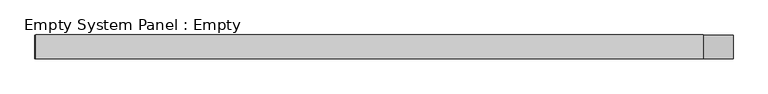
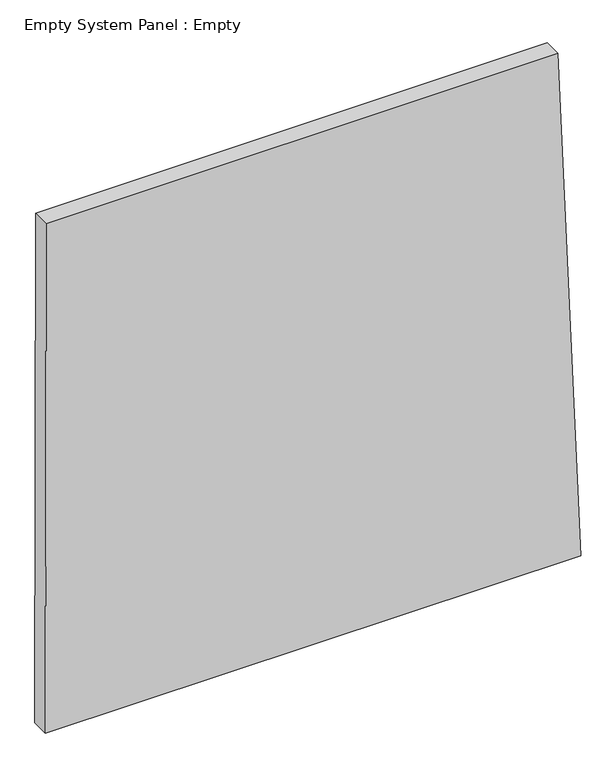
"""IFC4 building model written with IfcOpenShell, lengths in millimetres: plate geometry, Empty System Panel : Empty."""

import ifcopenshell
import ifcopenshell.guid

model = None  # the IFC model being written
_history = None  # IfcOwnerHistory: only IFC2X3 demands one
_inside = {}  # id of a spatial element -> (the spatial element, [elements in it])
_under = {}  # id of a project, library or spatial element -> (it, [spatial elements below it])
_declared = {}  # id of a project -> (the project, [libraries it declares])
_typed = {}  # id of a type object -> (the type object, [elements of that type])
_made_of = {}  # id of a material, layer set ... -> (it, [elements and type objects made of it])


def new_model(schema):
    """Start an empty IFC model of exactly this schema.

    Asked for "IFC4X3", IfcOpenShell would pick the latest addendum, in which some entities
    have other attributes; the version numbers below select the first issue.
    IFC2X3 requires an IfcOwnerHistory on every rooted entity: one is made here for all.
    """
    global model, _history
    if schema == "IFC4X3":
        model = ifcopenshell.file(schema_version=(4, 3, 0, 0))
    else:
        model = ifcopenshell.file(schema=schema)
    _inside.clear()
    _under.clear()
    _declared.clear()
    _typed.clear()
    _made_of.clear()
    _history = None
    if model.schema == "IFC2X3":
        org = make("IfcOrganization", Name="unknown")
        user = make(
            "IfcPersonAndOrganization",
            ThePerson=make("IfcPerson", FamilyName="unknown"),
            TheOrganization=org,
        )
        app = make(
            "IfcApplication",
            ApplicationDeveloper=org,
            Version="unknown",
            ApplicationFullName="unknown",
            ApplicationIdentifier="unknown",
        )
        _history = make(
            "IfcOwnerHistory",
            OwningUser=user,
            OwningApplication=app,
            ChangeAction="ADDED",
            CreationDate=0,
        )
    return model


def make(cls, **values):
    """One entity of the class cls with the attributes given. An attribute that is None is left unset."""
    return model.create_entity(
        cls, **{name: value for name, value in values.items() if value is not None}
    )


def rooted(cls, **values):
    """An entity with a GlobalId (a new one), such as an element, a storey or a relation."""
    return make(cls, GlobalId=ifcopenshell.guid.new(), OwnerHistory=_history, **values)


def si_unit(unit_type, name, prefix=None):
    """IfcSIUnit, for example si_unit("LENGTHUNIT", "METRE", prefix="MILLI")."""
    return make("IfcSIUnit", UnitType=unit_type, Prefix=prefix, Name=name)


def assignment(units):
    """IfcUnitAssignment: the units of a project."""
    return None if units is None else make("IfcUnitAssignment", Units=units)


def point(xyz):
    """IfcCartesianPoint."""
    return None if xyz is None else make("IfcCartesianPoint", Coordinates=xyz)


def direction(xyz):
    """IfcDirection."""
    return None if xyz is None else make("IfcDirection", DirectionRatios=xyz)


def frame(location, z_axis=None, x_axis=None):
    """IfcAxis2Placement3D, a coordinate frame: its origin and axes. An axis left out is left unset."""
    return make(
        "IfcAxis2Placement3D",
        Location=point(location),
        Axis=direction(z_axis),
        RefDirection=direction(x_axis),
    )


def origin():
    """The frame at (0, 0, 0) with its axes left unset."""
    return frame((0.0, 0.0, 0.0))


def place(relative_to, where):
    """IfcLocalPlacement: puts the frame where relative to a parent placement (None: the world)."""
    return make(
        "IfcLocalPlacement", PlacementRelTo=relative_to, RelativePlacement=where
    )


def context(
    kind, dimensions, precision=None, world=None, true_north=None, identifier=None
):
    """IfcGeometricRepresentationContext, for example the 3D "Model" context."""
    return make(
        "IfcGeometricRepresentationContext",
        ContextIdentifier=identifier,
        ContextType=kind,
        CoordinateSpaceDimension=dimensions,
        Precision=precision,
        WorldCoordinateSystem=world,
        TrueNorth=true_north,
    )


def project(units=None, contexts=None):
    """IfcProject with its units and contexts."""
    return rooted(
        "IfcProject",
        Name="project",
        RepresentationContexts=contexts,
        UnitsInContext=assignment(units),
    )


def spatial(cls, under=None, at=None, **own):
    """A site, building, storey or space (cls), placed at a placement, below another one or the project."""
    s = rooted(cls, ObjectPlacement=at, **own)
    if under is not None:
        _under.setdefault(under.id(), (under, []))[1].append(s)
    return s


def polyline(points):
    """IfcPolyline through the points."""
    return make("IfcPolyline", Points=[point(p) for p in points])


def outline(outer, holes=None, kind="AREA"):
    """IfcArbitraryClosedProfileDef: a profile drawn as a closed curve; with holes, ...WithVoids."""
    if holes is None:
        return make("IfcArbitraryClosedProfileDef", ProfileType=kind, OuterCurve=outer)
    return make(
        "IfcArbitraryProfileDefWithVoids",
        ProfileType=kind,
        OuterCurve=outer,
        InnerCurves=holes,
    )


def extrude(swept, where, along, depth):
    """IfcExtrudedAreaSolid: the profile swept, set in the frame where, extruded along a direction by depth."""
    return make(
        "IfcExtrudedAreaSolid",
        SweptArea=swept,
        Position=where,
        ExtrudedDirection=direction(along),
        Depth=depth,
    )


def shape(context_of_items, identifier, shape_type, items):
    """IfcShapeRepresentation: the items that make up one representation, for example the "Body"."""
    return make(
        "IfcShapeRepresentation",
        ContextOfItems=context_of_items,
        RepresentationIdentifier=identifier,
        RepresentationType=shape_type,
        Items=items,
    )


def source(mapping_origin, context_of_items, identifier, shape_type, items):
    """IfcRepresentationMap: a shape defined once, which mapped items show again and again."""
    return make(
        "IfcRepresentationMap",
        MappingOrigin=mapping_origin,
        MappedRepresentation=shape(context_of_items, identifier, shape_type, items),
    )


def transform(
    local_origin,
    x_axis=None,
    y_axis=None,
    z_axis=None,
    scale=None,
    scale2=None,
    scale3=None,
    uniform=True,
):
    """IfcCartesianTransformationOperator3D, or its non-uniform kind. x_axis, y_axis, z_axis: its Axis1, 2, 3."""
    if uniform:
        return make(
            "IfcCartesianTransformationOperator3D",
            Axis1=direction(x_axis),
            Axis2=direction(y_axis),
            LocalOrigin=point(local_origin),
            Scale=scale,
            Axis3=direction(z_axis),
        )
    return make(
        "IfcCartesianTransformationOperator3DnonUniform",
        Axis1=direction(x_axis),
        Axis2=direction(y_axis),
        LocalOrigin=point(local_origin),
        Scale=scale,
        Axis3=direction(z_axis),
        Scale2=scale2,
        Scale3=scale3,
    )


def mapped(mapping_source, mapping_target):
    """IfcMappedItem: shows the shape of a source again, moved by a transform."""
    return make(
        "IfcMappedItem", MappingSource=mapping_source, MappingTarget=mapping_target
    )


def made_of(thing, what):
    """Note that an element or type object is made of a material, layer set ...; save() writes the relation."""
    if what is not None:
        _made_of.setdefault(what.id(), (what, []))[1].append(thing)
    return thing


def element(
    cls,
    number,
    at=None,
    inside=None,
    cuts=None,
    type_object=None,
    material=None,
    context=None,
    identifier="Body",
    shape_type=None,
    held_by="IfcProductDefinitionShape",
    body=None,
    shapes=None,
    **own,
):
    """One element of the class cls, such as IfcWall. Its Tag is "e" and its number.

    at: its placement. inside: the storey or other place that contains it. cuts: it is an
    opening in that element (IfcRelVoidsElement). A single representation is given by context,
    identifier, shape_type and body (its items); several are given by shapes. held_by: the class
    of the entity that holds the representations. save() writes the other relations.
    """
    e = rooted(cls, Tag="e%d" % number, ObjectPlacement=at, **own)
    if body is not None:
        shapes = [shape(context, identifier, shape_type, body)]
    if shapes is not None:
        e.Representation = make(held_by, Representations=shapes)
    if inside is not None:
        _inside.setdefault(inside.id(), (inside, []))[1].append(e)
    if cuts is not None:
        rooted(
            "IfcRelVoidsElement", RelatingBuildingElement=cuts, RelatedOpeningElement=e
        )
    if type_object is not None:
        _typed.setdefault(type_object.id(), (type_object, []))[1].append(e)
    return made_of(e, material)


def aggregate(whole, parts):
    """IfcRelAggregates: a whole, such as a stair, and the parts it consists of."""
    return rooted("IfcRelAggregates", RelatingObject=whole, RelatedObjects=parts)


def save(model, path):
    """Write the relations noted so far, then the file.

    IfcRelAggregates (storeys below a building ...), IfcRelContainedInSpatialStructure (elements
    in a storey), IfcRelDefinesByType, IfcRelAssociatesMaterial and IfcRelDeclares: one each for
    every whole, place, type object, material and project.
    """
    for whole, parts in _under.values():
        aggregate(whole, parts)
    for where, things in _inside.values():
        rooted(
            "IfcRelContainedInSpatialStructure",
            RelatedElements=things,
            RelatingStructure=where,
        )
    for kind, things in _typed.values():
        rooted("IfcRelDefinesByType", RelatedObjects=things, RelatingType=kind)
    for what, things in _made_of.values():
        rooted("IfcRelAssociatesMaterial", RelatedObjects=things, RelatingMaterial=what)
    for by, libraries in _declared.values():
        rooted("IfcRelDeclares", RelatingContext=by, RelatedDefinitions=libraries)
    model.write(path)


def empty_system_panel_empty_32f8a223(model_context):
    return source(origin(), model_context, "Body", "SweptSolid", [
        extrude(outline(polyline([(0.0, -1485.3394555), (0.0, 1485.3394555), (2994.0797592, 1357.7516616), (2986.0205224, -1481.3961203), (0.0, -1485.3394555)])), frame((0.0, -50.8, 0.0), z_axis=(0.0, 1.0, 0.0), x_axis=(0.0, 0.0, 1.0)), (0.0, 0.0, 1.0), 101.6),
    ])


if __name__ == "__main__":
    model = new_model("IFC4")
    model_context = context("Model", 3, world=origin())
    ifc_project = project(units=[si_unit("LENGTHUNIT", "METRE", prefix="MILLI")], contexts=[model_context])
    site = spatial("IfcSite", under=ifc_project)
    building = spatial("IfcBuilding", under=site)
    placement = place(None, origin())
    empty_system_panel_empty_shape = empty_system_panel_empty_32f8a223(model_context)
    element("IfcPlate", 1, ObjectType="Empty System Panel : Empty", at=placement, inside=building, context=model_context, shape_type="MappedRepresentation", body=[
        mapped(empty_system_panel_empty_shape, transform((0.0, 0.0, 0.0), x_axis=(1.0, 0.0, 0.0), y_axis=(0.0, 1.0, 0.0), z_axis=(0.0, 0.0, 1.0))),
    ])
    save(model, "model.ifc")
